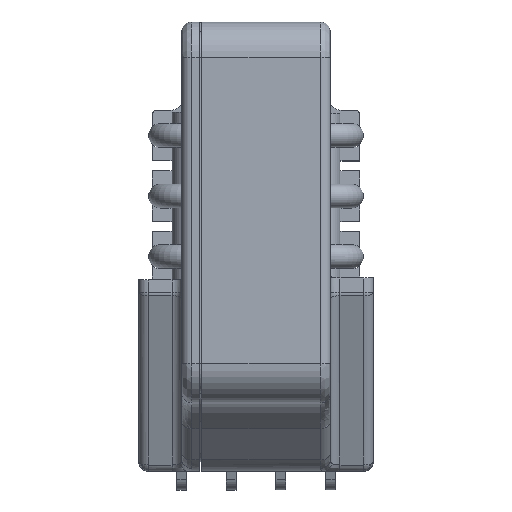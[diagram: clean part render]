
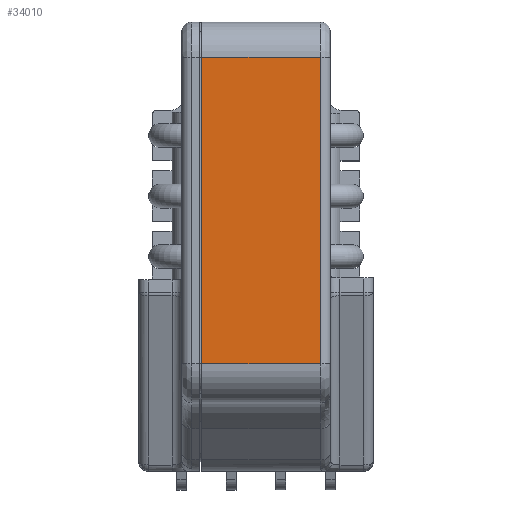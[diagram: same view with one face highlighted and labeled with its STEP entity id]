
A CAD part, top view. The second image highlights one B-rep face of the part: STEP entity #34010.
In plain terms, the highlighted planar face has unit normal (0, 0, 1).
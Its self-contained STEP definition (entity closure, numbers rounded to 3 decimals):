
#17520=CARTESIAN_POINT('',(5.311,17.55,5.46));
#17530=VERTEX_POINT('',#17520);
#19680=CARTESIAN_POINT('',(-0.769,1.85,5.46));
#19690=VERTEX_POINT('',#19680);
#19720=CARTESIAN_POINT('',(3.011,1.85,5.46));
#19730=DIRECTION('',(1.,0.,0.));
#19740=VECTOR('',#19730,1.);
#19750=LINE('',#19720,#19740);
#19760=CARTESIAN_POINT('',(5.311,1.85,5.46));
#19770=VERTEX_POINT('',#19760);
#19780=EDGE_CURVE('',#19690,#19770,#19750,.T.);
#24110=CARTESIAN_POINT('',(-0.769,17.55,5.46));
#24120=VERTEX_POINT('',#24110);
#24150=CARTESIAN_POINT('',(-0.769,12.159,
5.46));
#24160=DIRECTION('',(0.,-1.,0.));
#24170=VECTOR('',#24160,1.);
#24180=LINE('',#24150,#24170);
#24190=EDGE_CURVE('',#24120,#19690,#24180,.T.);
#33800=CARTESIAN_POINT('',(7.111,9.25,5.46));
#33810=DIRECTION('',(0.,0.,-1.));
#33820=DIRECTION('',(0.,1.,0.));
#33830=AXIS2_PLACEMENT_3D('',#33800,#33810,#33820);
#33840=PLANE('',#33830);
#33850=ORIENTED_EDGE('',*,*,#19780,.T.);
#33860=ORIENTED_EDGE('',*,*,#24190,.T.);
#33870=CARTESIAN_POINT('',(3.011,17.55,5.46));
#33880=DIRECTION('',(-1.,0.,-0.));
#33890=VECTOR('',#33880,1.);
#33900=LINE('',#33870,#33890);
#33910=EDGE_CURVE('',#17530,#24120,#33900,.T.);
#33920=ORIENTED_EDGE('',*,*,#33910,.T.);
#33930=CARTESIAN_POINT('',(5.311,12.159,
5.46));
#33940=DIRECTION('',(0.,1.,0.));
#33950=VECTOR('',#33940,1.);
#33960=LINE('',#33930,#33950);
#33970=EDGE_CURVE('',#19770,#17530,#33960,.T.);
#33980=ORIENTED_EDGE('',*,*,#33970,.T.);
#33990=EDGE_LOOP('',(#33980,#33920,#33860,#33850));
#34000=FACE_OUTER_BOUND('',#33990,.T.);
#34010=ADVANCED_FACE('',(#34000),#33840,.F.);
